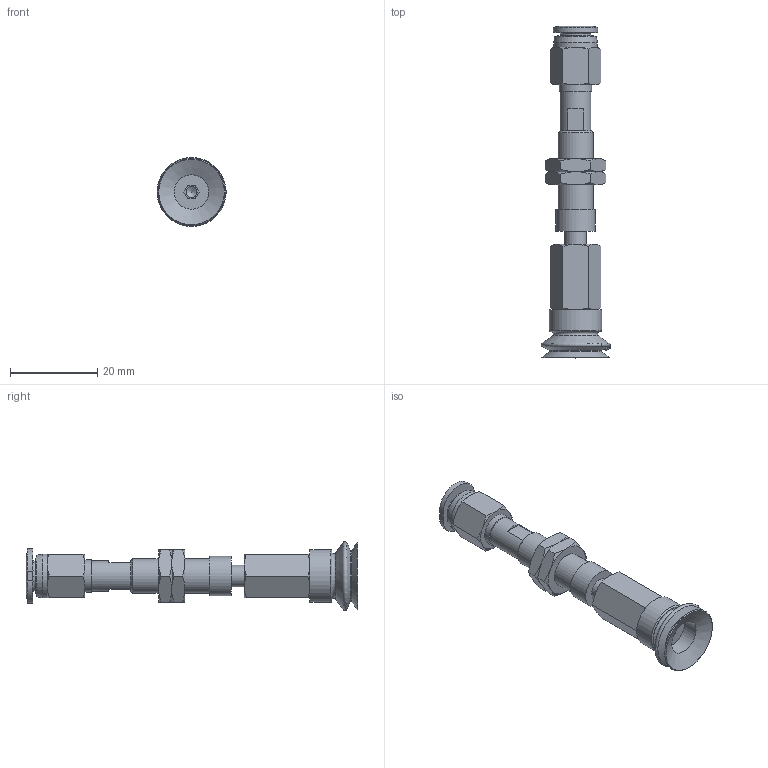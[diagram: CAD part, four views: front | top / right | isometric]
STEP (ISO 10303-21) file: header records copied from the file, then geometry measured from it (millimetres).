
FILE_DESCRIPTION(('STEP AP203'),'1');
FILE_NAME('-O.stp','2025-08-27T07:34:27',(' '),(' '),'Spatial InterOp 3D',' ',' ');
FILE_SCHEMA(('CONFIG_CONTROL_DESIGN'));
Length unit declared in the file: millimetre
Products named in the file (8): BNABPJTS-15-3-※-O; ADAPTER; NAPCTS-10-3-MBODY; Adapter-15-NAPJ; NUT-NAPJ-15-3-s; NAPJTS-15-3-FBODY; BPJG-15-※; PC-C_06-M5
Assembly tree (8 placements, depth 2):
  BNABPJTS-15-3-※-O
    ADAPTER
    NAPCTS-10-3-MBODY
    Adapter-15-NAPJ
    NUT-NAPJ-15-3-s  x2
    NAPJTS-15-3-FBODY
    BPJG-15-※
    PC-C_06-M5
Bounding box: 15.99 x 75.98 x 15.79 mm (x, y, z)
Volume: 4250.9 mm3; surface area: 5768.9 mm2
Topology: 7 solids, 10 shells, 188 faces, 392 edges, 233 vertices
Faces by surface type: cone 69, plane 67, cylinder 24, torus 11, bspline 10, sphere 4, revolution 3
Full cylindrical faces by diameter (mm): 2.5 x1, 4 x2, 4.134 x2, 4.6 x1, 5 x4, 7 x2, 7.188 x2, 7.4 x1, 7.9 x1, 8 x2, 8.2 x1, 9 x1, 10 x1, 12 x1
Entity records: 5118 total; most frequent: CARTESIAN_POINT 1607, DIRECTION 651, ORIENTED_EDGE 562, AXIS2_PLACEMENT_3D 291, EDGE_CURVE 283, EDGE_LOOP 235, VERTEX_POINT 195, FACE_OUTER_BOUND 135
